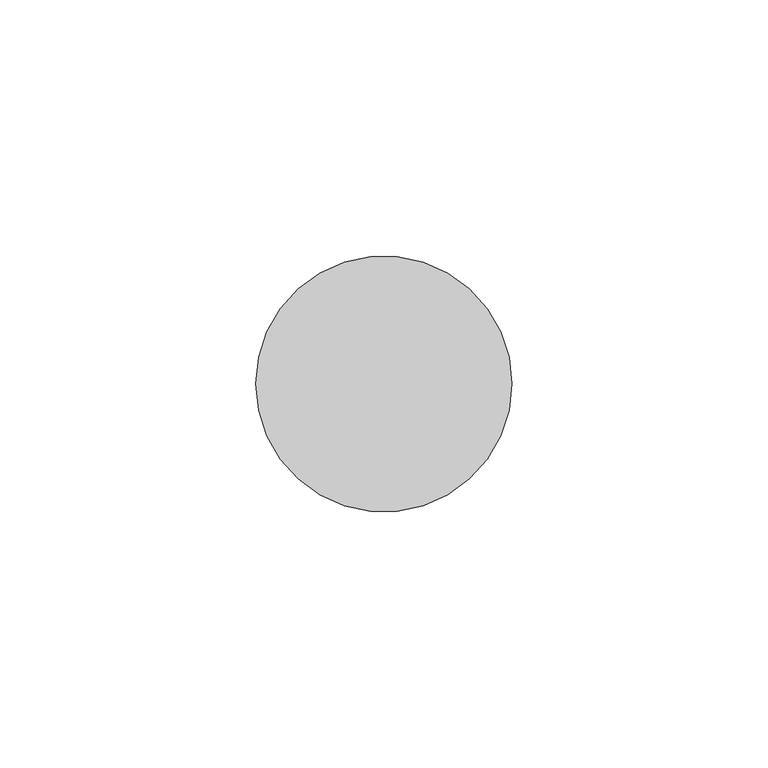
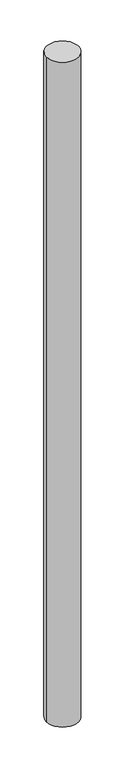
"""IFC4 building model written with IfcOpenShell, lengths in millimetres: member geometry, 圓形豎框 : 25mm 半徑."""

from ifc_helpers import new_model, si_unit, point, frame, origin, origin_2d, place, context, project, spatial, circle_curve, trimmed, segment, composite_curve, outline, extrude, source, transform, mapped, element, save


def member_109a191c(model_context):
    return source(origin(), model_context, "Body", "SweptSolid", [
        extrude(outline(composite_curve([segment(trimmed(circle_curve(origin_2d(), 25.0), [point((25.0, 0.0))], [point((-25.0, 0.0))], False, "CARTESIAN"), True, "CONTINUOUS"), segment(trimmed(circle_curve(origin_2d(), 25.0), [point((-25.0, 0.0))], [point((25.0, 0.0))], False, "CARTESIAN"), True, "CONTINUOUS")], self_intersect=False)), frame((0.0, 0.0, -1093.085721), z_axis=(0.0, 0.0, 1.0), x_axis=(1.0, 0.0, 0.0)), (0.0, 0.0, 1.0), 1093.085721),
    ])


if __name__ == "__main__":
    model = new_model("IFC4")
    model_context = context("Model", 3, world=origin())
    ifc_project = project(units=[si_unit("LENGTHUNIT", "METRE", prefix="MILLI")], contexts=[model_context])
    site = spatial("IfcSite", under=ifc_project)
    building = spatial("IfcBuilding", under=site)
    placement = place(None, origin())
    member_shape = member_109a191c(model_context)
    element("IfcMember", 1, ObjectType="圓形豎框 : 25mm 半徑", at=placement, inside=building, context=model_context, shape_type="MappedRepresentation", body=[
        mapped(member_shape, transform((0.0, 0.0, 0.0), x_axis=(1.0, 0.0, 0.0), y_axis=(0.0, 1.0, 0.0), z_axis=(0.0, 0.0, 1.0))),
    ])
    save(model, "model.ifc")
